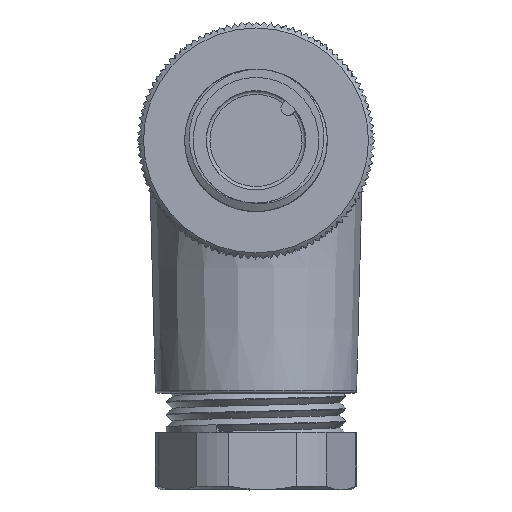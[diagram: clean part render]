
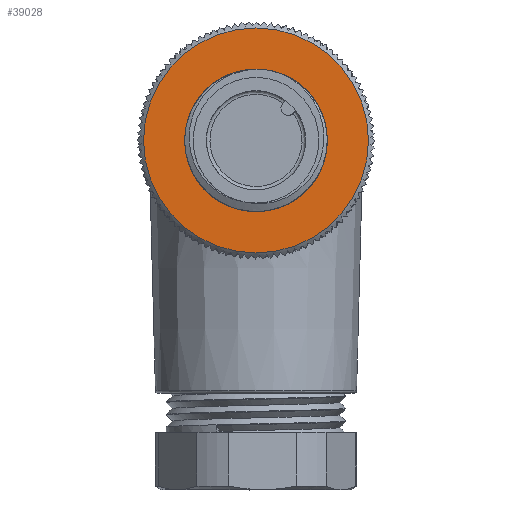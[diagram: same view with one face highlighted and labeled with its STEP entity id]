
A CAD part, top view. The second image highlights one B-rep face of the part: STEP entity #39028.
In plain terms, the highlighted planar face has unit normal (0, 0, 1).
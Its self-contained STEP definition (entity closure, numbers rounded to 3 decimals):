
#34449=CARTESIAN_POINT('',(8.833,-3.215,32.9));
#34450=VERTEX_POINT('',#34449);
#34451=CARTESIAN_POINT('',(0.,0.,32.9));
#34452=DIRECTION('',(0.,0.,-1.));
#34453=DIRECTION('',(-0.94,0.342,0.));
#34454=AXIS2_PLACEMENT_3D('',#34451,#34452,#34453);
#34455=CIRCLE('',#34454,9.4);
#34456=EDGE_CURVE('',#34450,#34450,#34455,.T.);
#38976=CARTESIAN_POINT('',(5.403,-1.967,32.9));
#38977=VERTEX_POINT('',#38976);
#38978=CARTESIAN_POINT('',(0.,0.,32.9));
#38979=DIRECTION('',(0.,0.,1.));
#38980=DIRECTION('',(-0.94,0.342,0.));
#38981=AXIS2_PLACEMENT_3D('',#38978,#38979,#38980);
#38982=CIRCLE('',#38981,5.75);
#38983=EDGE_CURVE('',#38977,#38977,#38982,.T.);
#39017=CARTESIAN_POINT('',(0.,0.,32.9));
#39018=DIRECTION('',(0.0,0.0,-1.0));
#39019=DIRECTION('',(-0.94,0.342,0.0));
#39020=AXIS2_PLACEMENT_3D('',#39017,#39018,#39019);
#39021=PLANE('',#39020);
#39022=ORIENTED_EDGE('',*,*,#34456,.F.);
#39023=EDGE_LOOP('',(#39022));
#39024=FACE_OUTER_BOUND('',#39023,.T.);
#39025=ORIENTED_EDGE('',*,*,#38983,.F.);
#39026=EDGE_LOOP('',(#39025));
#39027=FACE_BOUND('',#39026,.T.);
#39028=ADVANCED_FACE('',(#39024,#39027),#39021,.F.);
